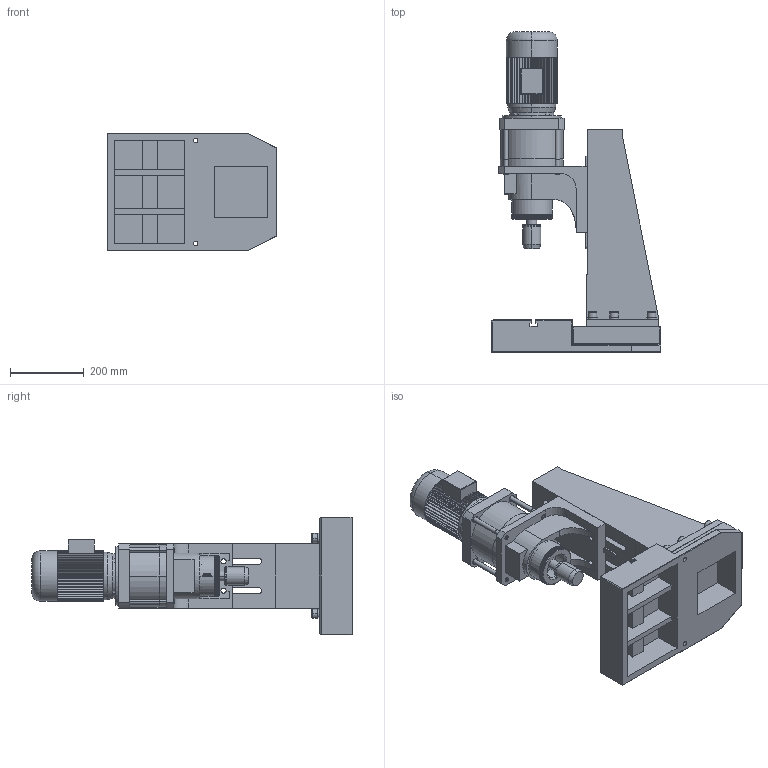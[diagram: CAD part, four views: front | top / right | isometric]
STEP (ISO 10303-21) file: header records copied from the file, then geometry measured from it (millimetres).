
FILE_DESCRIPTION((''),'2;1');
FILE_NAME('ZZ-FKH_ASM','2017-09-30T',('okjx'),(''),'PRO/ENGINEER BY PARAMETRIC TECHNOLOGY CORPORATION, 2008090','PRO/ENGINEER BY PARAMETRIC TECHNOLOGY CORPORATION, 2008090','');
FILE_SCHEMA(('CONFIG_CONTROL_DESIGN'));
Length unit declared in the file: millimetre
Products named in the file (11): GZTAI; JITI; M16; JITI_ASM; ZHIBI-FKH; LUOGAN; DIANJI; KEDUPAN; WEITIAOLUOM; BEIBAN; ZZ-FKH_ASM
Assembly tree (18 placements, depth 3):
  ZZ-FKH_ASM
    JITI_ASM
      GZTAI
      JITI
      M16  x6
    ZHIBI-FKH
    LUOGAN  x4
    DIANJI
    KEDUPAN
    WEITIAOLUOM
    BEIBAN
Bounding box: 460 x 871 x 320 mm (x, y, z)
Volume: 20085175.2 mm3; surface area: 1903898.5 mm2
Topology: 17 solids, 17 shells, 2162 faces, 5915 edges, 3829 vertices
Faces by surface type: plane 1459, cylinder 627, cone 48, torus 26, extrusion 2
Entity records: 64183 total; most frequent: CARTESIAN_POINT 13930, ORIENTED_EDGE 10914, DIRECTION 10001, EDGE_CURVE 5457, VERTEX_POINT 3547, AXIS2_PLACEMENT_3D 3362, VECTOR 3277, LINE 3275
